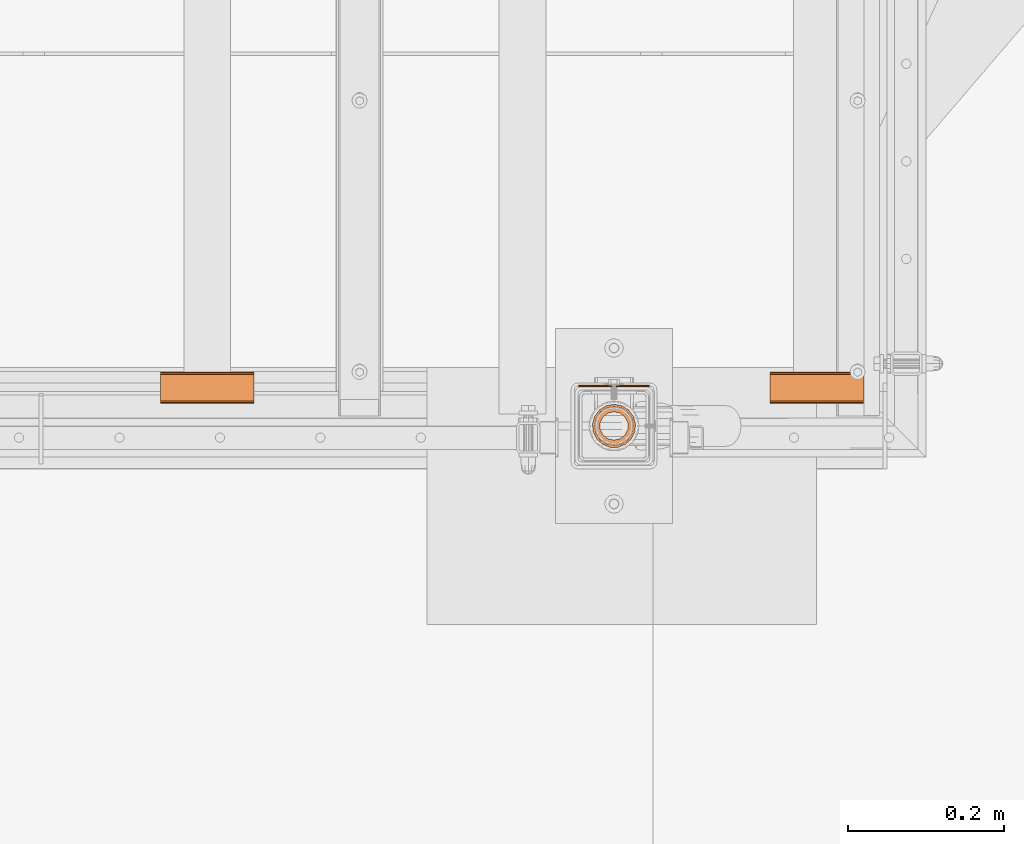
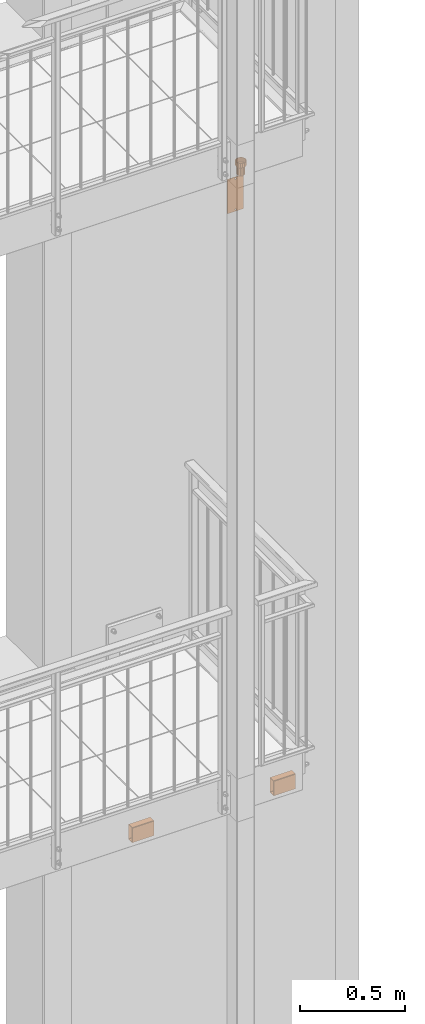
# One storey, part 84 of 162: 4 proxies.
"""IFC2X3 building model written with IfcOpenShell, lengths in millimetres."""

from ifc_helpers import new_model, entity, si_unit, converted_unit, origin_with_axes, place, context, project, spatial, faceted_brep, material, element, save


model = new_model("IFC2X3")

# Units and contexts
model_context = context("Model", 3, precision=1e-09, world=origin_with_axes())
ifc_project = project(units=[si_unit("LENGTHUNIT", "METRE", prefix="MILLI"), si_unit("AREAUNIT", "SQUARE_METRE"), si_unit("VOLUMEUNIT", "CUBIC_METRE"), converted_unit("PLANEANGLEUNIT", "DEGREE", entity("IfcPlaneAngleMeasure", 0.01745329), si_unit("PLANEANGLEUNIT", "RADIAN"), dimensions=[0, 0, 0, 0, 0, 0, 0])], contexts=[model_context])

# Site, building, storey
site_placement = place(None, origin_with_axes())
site = spatial("IfcSite", under=ifc_project, at=site_placement, Name="Hermannstra?e 1a, 60318 Frankfurt", CompositionType="ELEMENT")
building_placement = place(site_placement, origin_with_axes())
building = spatial("IfcBuilding", under=site, at=building_placement, Name="Struktur 1", CompositionType="ELEMENT")
storey_placement = place(building_placement, origin_with_axes())
storey = spatial("IfcBuildingStorey", under=building, at=storey_placement, Name="Default Storey", CompositionType="ELEMENT", Elevation=0.0)

# Proxies
ifc_material_1 = material(Name="Alu")
proxy_1_placement = place(None, origin_with_axes())
element("IfcBuildingElementProxy", 1, at=proxy_1_placement, inside=storey, material=ifc_material_1, ObjectType="-", context=model_context, shape_type="Brep", body=[
    faceted_brep([(5011.55936482, 1596.609373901, 7555.803847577), (5011.55936482, 1598.805526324, 7558.0), (5011.55936482, 1599.609373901, 7561.0), (5011.55936482, 1599.609373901, 7639.0), (5011.55936482, 1598.805526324, 7642.0), (5011.55936482, 1596.609373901, 7644.196152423), (5011.55936482, 1593.609373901, 7645.0), (5011.55936482, 1565.609373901, 7645.0), (5011.55936482, 1562.609373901, 7644.196152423), (5011.55936482, 1560.413221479, 7642.0), (5011.55936482, 1559.609373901, 7639.0), (5011.55936482, 1559.609373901, 7561.0), (5011.55936482, 1560.413221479, 7558.0), (5011.55936482, 1562.609373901, 7555.803847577), (5011.55936482, 1565.609373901, 7555.0), (5011.55936482, 1593.609373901, 7555.0), (5011.55936482, 1596.609373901, 7561.0), (5011.55936482, 1596.207450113, 7559.5), (5011.55936482, 1595.109373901, 7558.401923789), (5011.55936482, 1593.609373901, 7558.0), (5011.55936482, 1565.609373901, 7558.0), (5011.55936482, 1564.109373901, 7558.401923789), (5011.55936482, 1563.01129769, 7559.5), (5011.55936482, 1562.609373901, 7561.0), (5011.55936482, 1562.609373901, 7639.0), (5011.55936482, 1563.01129769, 7640.5), (5011.55936482, 1564.109373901, 7641.598076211), (5011.55936482, 1565.609373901, 7642.0), (5011.55936482, 1593.609373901, 7642.0), (5011.55936482, 1595.109373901, 7641.598076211), (5011.55936482, 1596.207450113, 7640.5), (5011.55936482, 1596.609373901, 7639.0), (4891.55936482, 1596.609373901, 7561.0), (4891.55936482, 1596.207450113, 7559.5), (4891.55936482, 1599.609373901, 7561.0), (4891.55936482, 1598.805526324, 7558.0), (4891.55936482, 1598.805526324, 7642.0), (4891.55936482, 1599.609373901, 7639.0), (4891.55936482, 1596.609373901, 7555.803847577), (4891.55936482, 1593.609373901, 7555.0), (4891.55936482, 1565.609373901, 7555.0), (4891.55936482, 1562.609373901, 7555.803847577), (4891.55936482, 1560.413221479, 7558.0), (4891.55936482, 1559.609373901, 7561.0), (4891.55936482, 1559.609373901, 7639.0), (4891.55936482, 1560.413221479, 7642.0), (4891.55936482, 1562.609373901, 7644.196152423), (4891.55936482, 1565.609373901, 7645.0), (4891.55936482, 1593.609373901, 7645.0), (4891.55936482, 1596.609373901, 7644.196152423), (4891.55936482, 1596.609373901, 7639.0), (4891.55936482, 1596.207450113, 7640.5), (4891.55936482, 1595.109373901, 7641.598076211), (4891.55936482, 1593.609373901, 7642.0), (4891.55936482, 1565.609373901, 7642.0), (4891.55936482, 1564.109373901, 7641.598076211), (4891.55936482, 1563.01129769, 7640.5), (4891.55936482, 1562.609373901, 7639.0), (4891.55936482, 1562.609373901, 7561.0), (4891.55936482, 1563.01129769, 7559.5), (4891.55936482, 1564.109373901, 7558.401923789), (4891.55936482, 1565.609373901, 7558.0), (4891.55936482, 1593.609373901, 7558.0), (4891.55936482, 1595.109373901, 7558.401923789)], [[[0, 1, 2, 3, 4, 5, 6, 7, 8, 9, 10, 11, 12, 13, 14, 15], [16, 17, 18, 19, 20, 21, 22, 23, 24, 25, 26, 27, 28, 29, 30, 31]], [[16, 32, 33, 17]], [[34, 2, 1, 35]], [[36, 37, 34, 35, 38, 39, 40, 41, 42, 43, 44, 45, 46, 47, 48, 49], [50, 51, 52, 53, 54, 55, 56, 57, 58, 59, 60, 61, 62, 63, 33, 32]], [[16, 31, 50, 32]], [[34, 37, 3, 2]], [[3, 37, 36, 4]], [[17, 33, 63, 18]], [[35, 1, 0, 38]], [[50, 31, 30, 51]], [[4, 36, 49, 5]], [[18, 63, 62, 19]], [[38, 0, 15, 39]], [[51, 30, 29, 52]], [[5, 49, 48, 6]], [[62, 61, 20, 19]], [[15, 14, 40, 39]], [[52, 29, 28, 53]], [[48, 47, 7, 6]], [[28, 27, 54, 53]], [[20, 61, 60, 21]], [[40, 14, 13, 41]], [[7, 47, 46, 8]], [[54, 27, 26, 55]], [[21, 60, 59, 22]], [[41, 13, 12, 42]], [[11, 43, 42, 12]], [[8, 46, 45, 9]], [[55, 26, 25, 56]], [[22, 59, 58, 23]], [[11, 10, 44, 43]], [[24, 57, 56, 25]], [[24, 23, 58, 57]], [[9, 45, 44, 10]]]),
])
proxy_2_placement = place(None, origin_with_axes())
element("IfcBuildingElementProxy", 2, at=proxy_2_placement, inside=storey, material=ifc_material_1, ObjectType="-", context=model_context, shape_type="Brep", body=[
    faceted_brep([(5793.30936482, 1596.609373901, 7555.803847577), (5793.30936482, 1598.805526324, 7558.0), (5793.30936482, 1599.609373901, 7561.0), (5793.30936482, 1599.609373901, 7639.0), (5793.30936482, 1598.805526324, 7642.0), (5793.30936482, 1596.609373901, 7644.196152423), (5793.30936482, 1593.609373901, 7645.0), (5793.30936482, 1565.609373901, 7645.0), (5793.30936482, 1562.609373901, 7644.196152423), (5793.30936482, 1560.413221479, 7642.0), (5793.30936482, 1559.609373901, 7639.0), (5793.30936482, 1559.609373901, 7561.0), (5793.30936482, 1560.413221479, 7558.0), (5793.30936482, 1562.609373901, 7555.803847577), (5793.30936482, 1565.609373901, 7555.0), (5793.30936482, 1593.609373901, 7555.0), (5793.30936482, 1596.609373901, 7561.0), (5793.30936482, 1596.207450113, 7559.5), (5793.30936482, 1595.109373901, 7558.401923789), (5793.30936482, 1593.609373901, 7558.0), (5793.30936482, 1565.609373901, 7558.0), (5793.30936482, 1564.109373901, 7558.401923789), (5793.30936482, 1563.01129769, 7559.5), (5793.30936482, 1562.609373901, 7561.0), (5793.30936482, 1562.609373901, 7639.0), (5793.30936482, 1563.01129769, 7640.5), (5793.30936482, 1564.109373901, 7641.598076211), (5793.30936482, 1565.609373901, 7642.0), (5793.30936482, 1593.609373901, 7642.0), (5793.30936482, 1595.109373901, 7641.598076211), (5793.30936482, 1596.207450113, 7640.5), (5793.30936482, 1596.609373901, 7639.0), (5673.30936482, 1596.609373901, 7561.0), (5673.30936482, 1596.207450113, 7559.5), (5673.30936482, 1599.609373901, 7561.0), (5673.30936482, 1598.805526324, 7558.0), (5673.30936482, 1598.805526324, 7642.0), (5673.30936482, 1599.609373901, 7639.0), (5673.30936482, 1596.609373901, 7555.803847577), (5673.30936482, 1593.609373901, 7555.0), (5673.30936482, 1565.609373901, 7555.0), (5673.30936482, 1562.609373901, 7555.803847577), (5673.30936482, 1560.413221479, 7558.0), (5673.30936482, 1559.609373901, 7561.0), (5673.30936482, 1559.609373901, 7639.0), (5673.30936482, 1560.413221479, 7642.0), (5673.30936482, 1562.609373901, 7644.196152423), (5673.30936482, 1565.609373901, 7645.0), (5673.30936482, 1593.609373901, 7645.0), (5673.30936482, 1596.609373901, 7644.196152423), (5673.30936482, 1596.609373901, 7639.0), (5673.30936482, 1596.207450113, 7640.5), (5673.30936482, 1595.109373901, 7641.598076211), (5673.30936482, 1593.609373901, 7642.0), (5673.30936482, 1565.609373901, 7642.0), (5673.30936482, 1564.109373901, 7641.598076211), (5673.30936482, 1563.01129769, 7640.5), (5673.30936482, 1562.609373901, 7639.0), (5673.30936482, 1562.609373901, 7561.0), (5673.30936482, 1563.01129769, 7559.5), (5673.30936482, 1564.109373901, 7558.401923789), (5673.30936482, 1565.609373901, 7558.0), (5673.30936482, 1593.609373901, 7558.0), (5673.30936482, 1595.109373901, 7558.401923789)], [[[0, 1, 2, 3, 4, 5, 6, 7, 8, 9, 10, 11, 12, 13, 14, 15], [16, 17, 18, 19, 20, 21, 22, 23, 24, 25, 26, 27, 28, 29, 30, 31]], [[16, 32, 33, 17]], [[34, 2, 1, 35]], [[36, 37, 34, 35, 38, 39, 40, 41, 42, 43, 44, 45, 46, 47, 48, 49], [50, 51, 52, 53, 54, 55, 56, 57, 58, 59, 60, 61, 62, 63, 33, 32]], [[16, 31, 50, 32]], [[34, 37, 3, 2]], [[3, 37, 36, 4]], [[17, 33, 63, 18]], [[35, 1, 0, 38]], [[50, 31, 30, 51]], [[4, 36, 49, 5]], [[18, 63, 62, 19]], [[38, 0, 15, 39]], [[51, 30, 29, 52]], [[5, 49, 48, 6]], [[62, 61, 20, 19]], [[15, 14, 40, 39]], [[52, 29, 28, 53]], [[48, 47, 7, 6]], [[28, 27, 54, 53]], [[20, 61, 60, 21]], [[40, 14, 13, 41]], [[7, 47, 46, 8]], [[54, 27, 26, 55]], [[21, 60, 59, 22]], [[41, 13, 12, 42]], [[11, 43, 42, 12]], [[8, 46, 45, 9]], [[55, 26, 25, 56]], [[22, 59, 58, 23]], [[11, 10, 44, 43]], [[24, 57, 56, 25]], [[24, 23, 58, 57]], [[9, 45, 44, 10]]]),
])
ifc_material_2 = material(Name="Kein")
proxy_3_placement = place(None, origin_with_axes())
element("IfcBuildingElementProxy", 3, at=proxy_3_placement, inside=storey, material=ifc_material_2, ObjectType="-", context=model_context, shape_type="Brep", body=[
    faceted_brep([(5469.30836482, 1582.609373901, 11039.999), (5469.30836482, 1580.609373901, 11039.999), (5469.844397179, 1580.609373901, 11037.9985), (5469.844397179, 1582.609373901, 11037.9985), (5471.30886482, 1580.609373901, 11036.534032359), (5471.30886482, 1582.609373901, 11036.534032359), (5469.844397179, 1582.609373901, 11041.9995), (5469.844397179, 1580.609373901, 11041.9995), (5471.30886482, 1582.609373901, 11043.463967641), (5471.30886482, 1580.609373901, 11043.463967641), (5428.30936482, 1580.609373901, 11229.999), (5428.30936482, 1580.609373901, 11029.999), (5518.30936482, 1580.609373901, 11029.999), (5518.30936482, 1580.609373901, 11229.999), (5471.30886482, 1580.609373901, 11216.534032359), (5469.844397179, 1580.609373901, 11217.9985), (5469.30836482, 1580.609373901, 11219.999), (5469.844397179, 1580.609373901, 11221.9995), (5471.30886482, 1580.609373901, 11223.463967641), (5473.30936482, 1580.609373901, 11224.0), (5475.30986482, 1580.609373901, 11223.463967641), (5476.77433246, 1580.609373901, 11221.9995), (5477.31036482, 1580.609373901, 11219.999), (5476.77433246, 1580.609373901, 11217.9985), (5475.30986482, 1580.609373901, 11216.534032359), (5473.30936482, 1580.609373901, 11215.998), (5473.30936482, 1580.609373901, 11044.0), (5475.30986482, 1580.609373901, 11043.463967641), (5476.77433246, 1580.609373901, 11041.9995), (5477.31036482, 1580.609373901, 11039.999), (5476.77433246, 1580.609373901, 11037.9985), (5475.30986482, 1580.609373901, 11036.534032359), (5473.30936482, 1580.609373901, 11035.998), (5469.844397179, 1582.609373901, 11217.9985), (5471.30886482, 1582.609373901, 11216.534032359), (5428.30936482, 1582.609373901, 11229.999), (5518.30936482, 1582.609373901, 11229.999), (5518.30936482, 1582.609373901, 11029.999), (5428.30936482, 1582.609373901, 11029.999), (5473.30936482, 1582.609373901, 11035.998), (5475.30986482, 1582.609373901, 11036.534032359), (5476.77433246, 1582.609373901, 11037.9985), (5477.31036482, 1582.609373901, 11039.999), (5476.77433246, 1582.609373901, 11041.9995), (5475.30986482, 1582.609373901, 11043.463967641), (5473.30936482, 1582.609373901, 11044.0), (5476.77433246, 1582.609373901, 11217.9985), (5477.31036482, 1582.609373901, 11219.999), (5476.77433246, 1582.609373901, 11221.9995), (5475.30986482, 1582.609373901, 11223.463967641), (5473.30936482, 1582.609373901, 11224.0), (5471.30886482, 1582.609373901, 11223.463967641), (5469.844397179, 1582.609373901, 11221.9995), (5469.30836482, 1582.609373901, 11219.999), (5473.30936482, 1582.609373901, 11215.998), (5475.30986482, 1582.609373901, 11216.534032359)], [[[0, 1, 2, 3]], [[3, 2, 4, 5]], [[1, 0, 6, 7]], [[7, 6, 8, 9]], [[10, 11, 12, 13], [14, 15, 16, 17, 18, 19, 20, 21, 22, 23, 24, 25], [1, 7, 9, 26, 27, 28, 29, 30, 31, 32, 4, 2]], [[33, 15, 14, 34]], [[35, 36, 37, 38], [0, 3, 5, 39, 40, 41, 42, 43, 44, 45, 8, 6], [46, 47, 48, 49, 50, 51, 52, 53, 33, 34, 54, 55]], [[15, 33, 53, 16]], [[5, 4, 32, 39]], [[9, 8, 45, 26]], [[16, 53, 52, 17]], [[39, 32, 31, 40]], [[34, 14, 25, 54]], [[17, 52, 51, 18]], [[11, 10, 35, 38]], [[40, 31, 30, 41]], [[26, 45, 44, 27]], [[18, 51, 50, 19]], [[38, 37, 12, 11]], [[41, 30, 29, 42]], [[28, 43, 42, 29]], [[27, 44, 43, 28]], [[54, 25, 24, 55]], [[10, 13, 36, 35]], [[13, 12, 37, 36]], [[19, 50, 49, 20]], [[55, 24, 23, 46]], [[20, 49, 48, 21]], [[46, 23, 22, 47]], [[21, 48, 47, 22]]]),
])
ifc_material_3 = material(Name="Kunststoff")
proxy_4_placement = place(None, origin_with_axes())
element("IfcBuildingElementProxy", 4, at=proxy_4_placement, inside=storey, material=ifc_material_3, ObjectType="-", context=model_context, shape_type="Brep", body=[
    faceted_brep([(5465.038594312, 1547.783805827, 11277.544584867), (5458.446464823, 1543.991989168, 11281.044584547), (5465.17463005, 1548.88028734, 11281.044584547), (5458.405951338, 1542.494449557, 11277.544584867), (5458.446472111, 1543.991982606, 11323.999001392), (5465.174634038, 1548.880278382, 11323.999001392), (5473.30936482, 1549.671555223, 11277.544584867), (5481.580135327, 1547.783805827, 11277.544584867), (5488.212778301, 1542.494449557, 11277.544584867), (5491.893617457, 1534.851108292, 11277.544584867), (5491.893617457, 1526.36763951, 11277.544584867), (5488.212778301, 1518.724298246, 11277.544584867), (5481.580135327, 1513.434941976, 11277.544584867), (5473.30936482, 1511.54719258, 11277.544584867), (5465.038594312, 1513.434941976, 11277.544584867), (5458.405951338, 1518.724298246, 11277.544584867), (5454.725112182, 1526.36763951, 11277.544584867), (5454.725112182, 1534.851108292, 11277.544584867), (5473.30936482, 1548.809369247, 11277.544585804), (5465.412682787, 1547.007003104, 11277.544585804), (5459.080035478, 1541.956885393, 11277.544585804), (5455.565681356, 1534.659253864, 11277.544585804), (5455.565681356, 1526.559493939, 11277.544585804), (5459.080035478, 1519.26186241, 11277.544585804), (5465.412682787, 1514.211744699, 11277.544585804), (5473.30936482, 1512.409378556, 11277.544585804), (5481.206046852, 1514.211744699, 11277.544585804), (5487.538694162, 1519.26186241, 11277.544585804), (5491.053048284, 1526.559493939, 11277.544585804), (5491.053048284, 1534.659253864, 11277.544585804), (5487.538694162, 1541.956885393, 11277.544585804), (5481.206046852, 1547.007003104, 11277.544585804), (5454.288230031, 1536.789715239, 11281.044584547), (5465.412682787, 1547.007003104, 11324.744585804), (5459.080035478, 1541.956885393, 11324.744585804), (5473.30936482, 1550.609368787, 11323.999001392), (5473.30936482, 1550.609378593, 11281.044584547), (5455.254318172, 1550.41481661, 11330.798996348), (5463.628086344, 1555.599634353, 11330.798996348), (5473.30936482, 1548.809369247, 11324.744585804), (5463.742277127, 1553.706366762, 11331.544580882), (5454.288239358, 1536.789712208, 11323.999001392), (5455.25432157, 1550.414812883, 11354.544585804), (5463.628088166, 1555.599629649, 11354.544585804), (5455.631691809, 1548.287046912, 11331.544580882), (5463.742277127, 1553.706366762, 11356.544585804), (5473.30936482, 1555.609378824, 11331.544580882), (5473.30936482, 1555.609378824, 11356.544585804), (5453.418922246, 1528.518804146, 11281.044584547), (5473.30936482, 1557.409373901, 11354.544585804), (5473.30936482, 1557.409378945, 11330.798996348), (5473.30936482, 1558.409366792, 11354.544585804), (5483.351880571, 1556.53209525, 11354.544585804), (5492.038098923, 1551.153816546, 11354.544585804), (5498.194897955, 1543.000897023, 11354.544585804), (5500.990767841, 1533.174433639, 11354.544585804), (5500.048110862, 1523.001544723, 11354.544585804), (5495.494238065, 1513.856135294, 11354.544585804), (5487.944175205, 1506.973343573, 11354.544585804), (5478.417600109, 1503.282728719, 11354.544585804), (5468.201129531, 1503.282728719, 11354.544585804), (5458.674554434, 1506.973343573, 11354.544585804), (5451.124491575, 1513.856135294, 11354.544585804), (5446.570618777, 1523.001544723, 11354.544585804), (5445.627961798, 1533.174433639, 11354.544585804), (5448.423831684, 1543.000897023, 11354.544585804), (5454.580630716, 1551.153816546, 11354.544585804), (5463.266849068, 1556.53209525, 11354.544585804), (5482.990641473, 1555.599629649, 11354.544585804), (5449.318988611, 1542.555161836, 11354.544585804), (5446.623688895, 1533.082165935, 11354.544585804), (5447.532437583, 1523.275205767, 11354.544585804), (5451.922503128, 1514.458765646, 11354.544585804), (5459.200982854, 1507.823554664, 11354.544585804), (5468.384877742, 1504.26569483, 11354.544585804), (5478.233851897, 1504.26569483, 11354.544585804), (5487.417746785, 1507.823554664, 11354.544585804), (5494.696226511, 1514.458765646, 11354.544585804), (5499.086292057, 1523.275205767, 11354.544585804), (5499.995040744, 1533.082165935, 11354.544585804), (5497.299741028, 1542.555161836, 11354.544585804), (5491.364408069, 1550.414812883, 11354.544585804), (5481.444099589, 1548.88028734, 11281.044584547), (5492.038098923, 1551.153816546, 11356.544585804), (5483.351880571, 1556.53209525, 11356.544585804), (5473.30936482, 1558.409366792, 11356.544585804), (5463.266849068, 1556.53209525, 11356.544585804), (5454.580630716, 1551.153816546, 11356.544585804), (5448.423831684, 1543.000897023, 11356.544585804), (5445.627961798, 1533.174433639, 11356.544585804), (5446.570618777, 1523.001544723, 11356.544585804), (5451.124491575, 1513.856135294, 11356.544585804), (5458.674554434, 1506.973343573, 11356.544585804), (5468.201129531, 1503.282728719, 11356.544585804), (5478.417600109, 1503.282728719, 11356.544585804), (5487.944175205, 1506.973343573, 11356.544585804), (5495.494238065, 1513.856135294, 11356.544585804), (5500.048110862, 1523.001544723, 11356.544585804), (5500.990767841, 1533.174433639, 11356.544585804), (5498.194897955, 1543.000897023, 11356.544585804), (5482.876452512, 1553.706366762, 11356.544585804), (5490.98703783, 1548.287046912, 11356.544585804), (5496.40635768, 1540.176461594, 11356.544585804), (5498.309369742, 1530.609373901, 11356.544585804), (5496.40635768, 1521.042286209, 11356.544585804), (5490.98703783, 1512.931700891, 11356.544585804), (5482.876452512, 1507.512381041, 11356.544585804), (5473.30936482, 1505.609368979, 11356.544585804), (5463.742277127, 1507.512381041, 11356.544585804), (5455.631691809, 1512.931700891, 11356.544585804), (5450.212371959, 1521.042286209, 11356.544585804), (5448.309359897, 1530.609373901, 11356.544585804), (5450.212371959, 1540.176461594, 11356.544585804), (5455.631691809, 1548.287046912, 11356.544585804), (5449.318984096, 1542.555164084, 11330.798996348), (5455.565681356, 1534.659253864, 11324.744585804), (5453.418931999, 1528.518805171, 11323.999001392), (5481.444095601, 1548.880278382, 11323.999001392), (5481.206046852, 1547.007003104, 11324.744585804), (5482.876452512, 1553.706366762, 11331.544580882), (5450.212371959, 1540.176461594, 11331.544580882), (5455.988852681, 1520.609371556, 11281.044584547), (5482.990643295, 1555.599634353, 11330.798996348), (5488.172264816, 1543.991989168, 11281.044584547), (5446.623683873, 1533.0821664, 11330.798996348), (5455.565681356, 1526.559493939, 11324.744585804), (5455.988861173, 1520.609376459, 11323.999001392), (5488.172257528, 1543.991982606, 11323.999001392), (5487.538694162, 1541.956885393, 11324.744585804), (5490.98703783, 1548.287046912, 11331.544580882), (5448.309359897, 1530.609373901, 11331.544580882), (5461.553657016, 1514.429030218, 11281.044584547), (5447.532432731, 1523.275204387, 11330.798996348), (5492.330499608, 1536.789715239, 11281.044584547), (5491.364411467, 1550.41481661, 11330.798996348), (5492.330490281, 1536.789712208, 11323.999001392), (5459.080035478, 1519.26186241, 11324.744585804), (5461.55366278, 1514.429038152, 11323.999001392), (5497.299745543, 1542.555164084, 11330.798996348), (5491.053048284, 1534.659253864, 11324.744585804), (5496.40635768, 1540.176461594, 11331.544580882), (5450.212371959, 1521.042286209, 11331.544580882), (5469.151130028, 1511.046417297, 11281.044584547), (5451.922499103, 1514.458762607, 11330.798996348), (5493.199807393, 1528.518804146, 11281.044584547), (5493.19979764, 1528.518805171, 11323.999001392), (5499.995045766, 1533.0821664, 11330.798996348), (5465.412682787, 1514.211744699, 11324.744585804), (5469.151132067, 1511.04642689, 11323.999001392), (5477.467599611, 1511.046417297, 11281.044584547), (5485.065072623, 1514.429030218, 11281.044584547), (5490.629876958, 1520.609371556, 11281.044584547), (5491.053048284, 1526.559493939, 11324.744585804), (5498.309369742, 1530.609373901, 11331.544580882), (5455.631691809, 1512.931700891, 11331.544580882), (5459.200980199, 1507.823550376, 11330.798996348), (5490.629868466, 1520.609376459, 11323.999001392), (5499.086296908, 1523.275204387, 11330.798996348), (5487.538694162, 1519.26186241, 11324.744585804), (5481.206046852, 1514.211744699, 11324.744585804), (5473.30936482, 1512.409378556, 11324.744585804), (5477.467597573, 1511.04642689, 11323.999001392), (5485.065066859, 1514.429038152, 11323.999001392), (5496.40635768, 1521.042286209, 11331.544580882), (5463.742277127, 1507.512381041, 11331.544580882), (5468.384876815, 1504.265689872, 11330.798996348), (5494.696230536, 1514.458762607, 11330.798996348), (5490.98703783, 1512.931700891, 11331.544580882), (5482.876452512, 1507.512381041, 11331.544580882), (5478.233852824, 1504.265689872, 11330.798996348), (5487.41774944, 1507.823550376, 11330.798996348), (5473.30936482, 1505.609368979, 11331.544580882)], [[[0, 1, 2]], [[0, 3, 1]], [[2, 1, 4, 5]], [[2, 6, 0]], [[0, 6, 7, 8, 9, 10, 11, 12, 13, 14, 15, 16, 17, 3], [18, 19, 20, 21, 22, 23, 24, 25, 26, 27, 28, 29, 30, 31]], [[3, 32, 1]], [[19, 33, 34, 20]], [[2, 5, 35, 36]], [[5, 37, 38]], [[2, 36, 6]], [[33, 19, 18, 39]], [[40, 33, 39]], [[1, 32, 41, 4]], [[5, 4, 37]], [[38, 37, 42, 43]], [[3, 17, 32]], [[40, 44, 33]], [[45, 40, 46, 47]], [[17, 48, 32]], [[38, 35, 5]], [[43, 49, 50, 38]], [[51, 52, 53, 54, 55, 56, 57, 58, 59, 60, 61, 62, 63, 64, 65, 66, 67], [68, 49, 43, 42, 69, 70, 71, 72, 73, 74, 75, 76, 77, 78, 79, 80, 81]], [[36, 82, 6]], [[46, 40, 39]], [[83, 84, 85, 86, 87, 88, 89, 90, 91, 92, 93, 94, 95, 96, 97, 98, 99], [47, 100, 101, 102, 103, 104, 105, 106, 107, 108, 109, 110, 111, 112, 113, 45]], [[4, 114, 37]], [[86, 85, 51, 67]], [[20, 34, 115, 21]], [[44, 34, 33]], [[40, 45, 113, 44]], [[17, 16, 48]], [[32, 48, 116, 41]], [[36, 35, 117, 82]], [[38, 50, 35]], [[7, 6, 82]], [[39, 18, 31, 118]], [[46, 39, 119]], [[47, 46, 119, 100]], [[4, 41, 114]], [[37, 114, 69, 42]], [[67, 66, 87, 86]], [[44, 120, 34]], [[16, 121, 48]], [[50, 122, 35]], [[49, 68, 122, 50]], [[85, 84, 52, 51]], [[7, 82, 123]], [[119, 39, 118]], [[41, 124, 114]], [[21, 115, 125, 22]], [[120, 115, 34]], [[44, 113, 112, 120]], [[16, 15, 121]], [[48, 121, 126, 116]], [[41, 116, 124]], [[117, 127, 123, 82]], [[117, 35, 122]], [[8, 7, 123]], [[118, 31, 30, 128]], [[129, 119, 118]], [[100, 119, 129, 101]], [[114, 124, 70, 69]], [[66, 65, 88, 87]], [[120, 130, 115]], [[15, 131, 121]], [[116, 132, 124]], [[8, 123, 133]], [[127, 117, 134]], [[127, 135, 133, 123]], [[117, 122, 134]], [[68, 81, 134, 122]], [[84, 83, 53, 52]], [[129, 118, 128]], [[22, 125, 136, 23]], [[130, 125, 115]], [[120, 112, 111, 130]], [[15, 14, 131]], [[121, 131, 137, 126]], [[116, 126, 132]], [[124, 132, 71, 70]], [[9, 8, 133]], [[127, 134, 138]], [[135, 127, 138]], [[128, 30, 29, 139]], [[140, 129, 128]], [[101, 129, 140, 102]], [[65, 64, 89, 88]], [[130, 141, 125]], [[14, 142, 131]], [[126, 143, 132]], [[9, 133, 144]], [[135, 145, 144, 133]], [[138, 134, 81, 80]], [[135, 138, 146]], [[83, 99, 54, 53]], [[140, 128, 139]], [[23, 136, 147, 24]], [[141, 136, 125]], [[130, 111, 110, 141]], [[14, 13, 142]], [[131, 142, 148, 137]], [[126, 137, 143]], [[132, 143, 72, 71]], [[13, 12, 149]], [[12, 11, 150]], [[11, 10, 151]], [[10, 9, 144]], [[145, 135, 146]], [[80, 79, 146, 138]], [[139, 29, 28, 152]], [[153, 140, 139]], [[102, 140, 153, 103]], [[64, 63, 90, 89]], [[141, 154, 136]], [[13, 149, 142]], [[137, 155, 143]], [[12, 150, 149]], [[11, 151, 150]], [[10, 144, 151]], [[145, 156, 151, 144]], [[145, 146, 157]], [[79, 78, 157, 146]], [[99, 98, 55, 54]], [[153, 139, 152]], [[27, 158, 152, 28]], [[26, 159, 158, 27]], [[25, 160, 159, 26]], [[24, 147, 160, 25]], [[154, 147, 136]], [[141, 110, 109, 154]], [[142, 149, 161, 148]], [[137, 148, 155]], [[143, 155, 73, 72]], [[149, 150, 162, 161]], [[150, 151, 156, 162]], [[156, 145, 157]], [[163, 153, 152]], [[103, 153, 163, 104]], [[63, 62, 91, 90]], [[154, 164, 147]], [[148, 165, 155]], [[156, 157, 166]], [[78, 77, 166, 157]], [[98, 97, 56, 55]], [[163, 152, 158]], [[167, 158, 159]], [[168, 159, 160]], [[164, 160, 147]], [[154, 109, 108, 164]], [[148, 161, 169, 165]], [[155, 165, 74, 73]], [[161, 162, 170]], [[162, 156, 166]], [[167, 163, 158]], [[104, 163, 167, 105]], [[62, 61, 92, 91]], [[168, 167, 159]], [[171, 168, 160]], [[164, 171, 160]], [[161, 170, 169]], [[162, 166, 170]], [[77, 76, 170, 166]], [[97, 96, 57, 56]], [[168, 106, 105, 167]], [[171, 107, 106, 168]], [[164, 108, 107, 171]], [[165, 169, 75, 74]], [[169, 170, 76, 75]], [[61, 60, 93, 92]], [[96, 95, 58, 57]], [[60, 59, 94, 93]], [[95, 94, 59, 58]]]),
])

save(model, "model.ifc")
